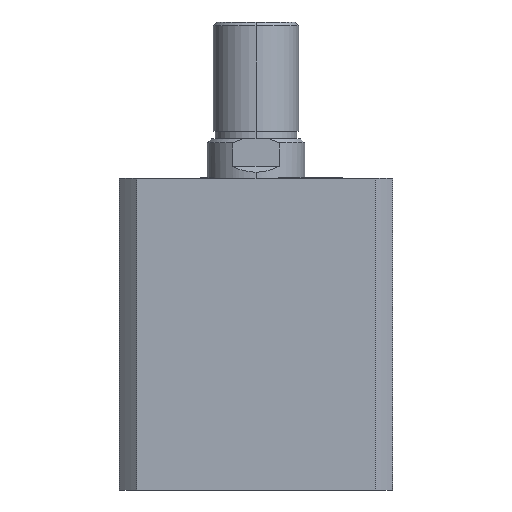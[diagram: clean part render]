
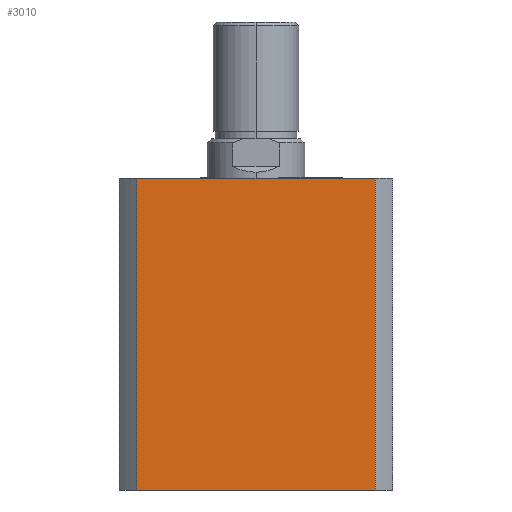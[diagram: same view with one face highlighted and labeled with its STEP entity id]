
A CAD part, left-side view. The second image highlights one B-rep face of the part: STEP entity #3010.
In plain terms, the highlighted planar face has unit normal (-1, 0, 0).
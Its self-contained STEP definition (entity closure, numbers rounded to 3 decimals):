
#339 = DIRECTION ( 'NONE',  ( 0., -1., 0. ) ) ;
#340 = CARTESIAN_POINT ( 'NONE',  ( -35., 0., 80. ) ) ;
#1031 = LINE ( 'NONE', #3204, #1037 ) ;
#1035 = LINE ( 'NONE', #3205, #1041 ) ;
#1036 = LINE ( 'NONE', #3199, #1039 ) ;
#1037 = VECTOR ( 'NONE', #3209, 1000. ) ;
#1039 = VECTOR ( 'NONE', #3197, 1000. ) ;
#1041 = VECTOR ( 'NONE', #3196, 1000. ) ;
#1123 = LINE ( 'NONE', #340, #1125 ) ;
#1125 = VECTOR ( 'NONE', #339, 1000. ) ;
#1491 = FACE_OUTER_BOUND ( 'NONE', #1658, .T. ) ;
#1658 = EDGE_LOOP ( 'NONE', ( #3557, #3558, #3559, #3560 ) ) ;
#1806 = CARTESIAN_POINT ( 'NONE',  ( -35., 0., 80. ) ) ;
#1811 = PLANE ( 'NONE',  #2743 ) ;
#1814 = DIRECTION ( 'NONE',  ( 1., 0., 0. ) ) ;
#1815 = DIRECTION ( 'NONE',  ( 0., 1., 0. ) ) ;
#2087 = CARTESIAN_POINT ( 'NONE',  ( -35., -30.615, 0. ) ) ;
#2088 = CARTESIAN_POINT ( 'NONE',  ( -35., 30.615, 0. ) ) ;
#2107 = CARTESIAN_POINT ( 'NONE',  ( -35., -30.615, 80. ) ) ;
#2108 = CARTESIAN_POINT ( 'NONE',  ( -35., 30.615, 80. ) ) ;
#2343 = EDGE_CURVE ( 'NONE', #3725, #3705, #1031, .T. ) ;
#2344 = EDGE_CURVE ( 'NONE', #3706, #3705, #1036, .T. ) ;
#2345 = EDGE_CURVE ( 'NONE', #3726, #3706, #1035, .T. ) ;
#2406 = EDGE_CURVE ( 'NONE', #3726, #3725, #1123, .T. ) ;
#2743 = AXIS2_PLACEMENT_3D ( 'NONE', #1806, #1814, #1815 ) ;
#3010 = ADVANCED_FACE ( 'NONE', ( #1491 ), #1811, .F. ) ;
#3196 = DIRECTION ( 'NONE',  ( 0., 0., -1. ) ) ;
#3197 = DIRECTION ( 'NONE',  ( 0., -1., 0. ) ) ;
#3199 = CARTESIAN_POINT ( 'NONE',  ( -35., 0., 0. ) ) ;
#3204 = CARTESIAN_POINT ( 'NONE',  ( -35., -30.615, 80. ) ) ;
#3205 = CARTESIAN_POINT ( 'NONE',  ( -35., 30.615, 80. ) ) ;
#3209 = DIRECTION ( 'NONE',  ( 0., 0., -1. ) ) ;
#3557 = ORIENTED_EDGE ( 'NONE', *, *, #2344, .T. ) ;
#3558 = ORIENTED_EDGE ( 'NONE', *, *, #2343, .F. ) ;
#3559 = ORIENTED_EDGE ( 'NONE', *, *, #2406, .F. ) ;
#3560 = ORIENTED_EDGE ( 'NONE', *, *, #2345, .T. ) ;
#3705 = VERTEX_POINT ( 'NONE', #2087 ) ;
#3706 = VERTEX_POINT ( 'NONE', #2088 ) ;
#3725 = VERTEX_POINT ( 'NONE', #2107 ) ;
#3726 = VERTEX_POINT ( 'NONE', #2108 ) ;
